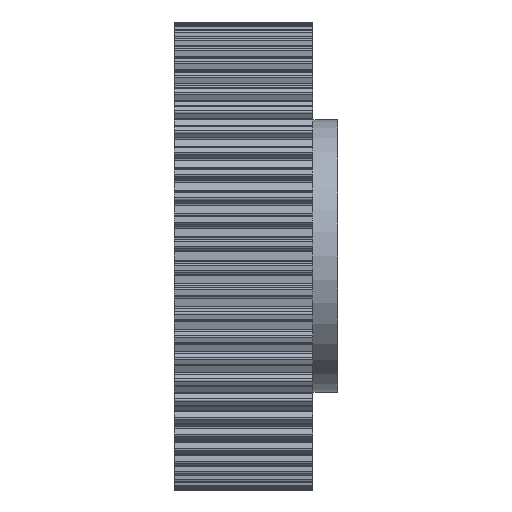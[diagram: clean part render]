
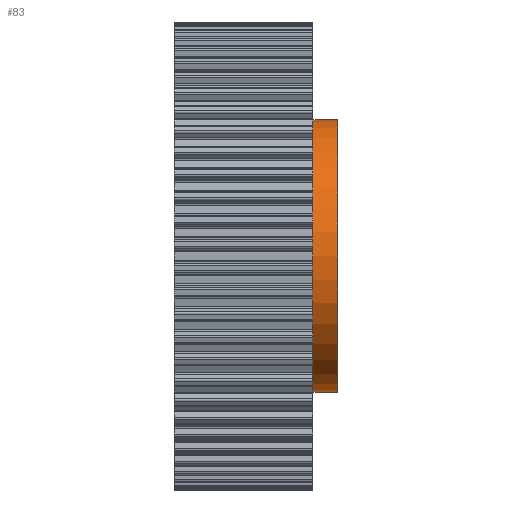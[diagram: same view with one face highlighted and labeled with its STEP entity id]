
A CAD part, front view. The second image highlights one B-rep face of the part: STEP entity #83.
In plain terms, the highlighted cylindrical face has radius 55 mm (diameter 110 mm), a full revolution.
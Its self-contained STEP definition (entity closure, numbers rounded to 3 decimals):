
#83 = ADVANCED_FACE( '', ( #581, #582 ), #583, .T. );
#581 = FACE_OUTER_BOUND( '', #1556, .T. );
#582 = FACE_OUTER_BOUND( '', #1557, .T. );
#583 = CYLINDRICAL_SURFACE( '', #1558, 55. );
#1556 = EDGE_LOOP( '', ( #3517 ) );
#1557 = EDGE_LOOP( '', ( #3518 ) );
#1558 = AXIS2_PLACEMENT_3D( '', #3519, #3520, #3521 );
#3517 = ORIENTED_EDGE( '', *, *, #7820, .T. );
#3518 = ORIENTED_EDGE( '', *, *, #7822, .F. );
#3519 = CARTESIAN_POINT( '', ( 66., 0., 0. ) );
#3520 = DIRECTION( '', ( -1., 0., 0. ) );
#3521 = DIRECTION( '', ( 0., 0., -1. ) );
#7820 = EDGE_CURVE( '', #10225, #10225, #10226, .T. );
#7822 = EDGE_CURVE( '', #10229, #10229, #10230, .T. );
#10225 = VERTEX_POINT( '', #12998 );
#10226 = CIRCLE( '', #12999, 55. );
#10229 = VERTEX_POINT( '', #13002 );
#10230 = CIRCLE( '', #13003, 55. );
#12998 = CARTESIAN_POINT( '', ( 56., 0., -55. ) );
#12999 = AXIS2_PLACEMENT_3D( '', #16122, #16123, #16124 );
#13002 = CARTESIAN_POINT( '', ( 66., 0., -55. ) );
#13003 = AXIS2_PLACEMENT_3D( '', #16128, #16129, #16130 );
#16122 = CARTESIAN_POINT( '', ( 56., 0., 0. ) );
#16123 = DIRECTION( '', ( 1., 0., 0. ) );
#16124 = DIRECTION( '', ( 0., 0., -1. ) );
#16128 = CARTESIAN_POINT( '', ( 66., 0., 0. ) );
#16129 = DIRECTION( '', ( 1., 0., 0. ) );
#16130 = DIRECTION( '', ( 0., 0., -1. ) );
